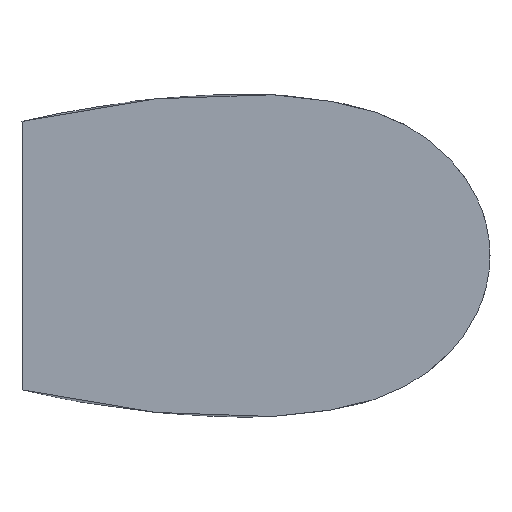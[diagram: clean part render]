
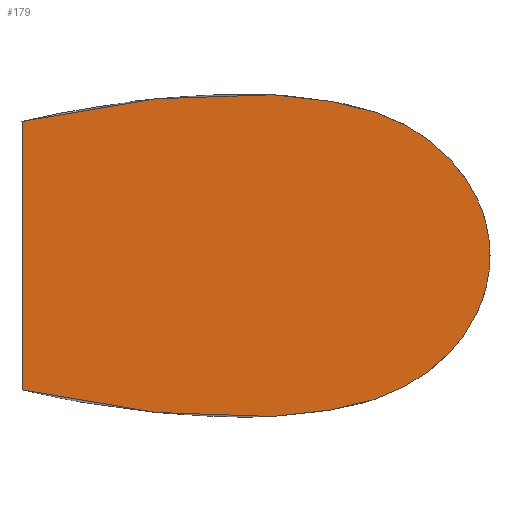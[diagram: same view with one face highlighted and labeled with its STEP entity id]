
A CAD part, left-side view. The second image highlights one B-rep face of the part: STEP entity #179.
In plain terms, the highlighted planar face has unit normal (-1, 0, 0).
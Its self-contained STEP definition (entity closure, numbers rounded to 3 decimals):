
#2=DIRECTION('',(0.,0.,-1.));
#3=VECTOR('',#2,2.411);
#4=CARTESIAN_POINT('',(-9.,-0.3,1.206));
#5=LINE('',#4,#3);
#10=CARTESIAN_POINT('',(-9.,-0.3,1.206));
#11=CARTESIAN_POINT('',(-9.,-0.463,1.246));
#12=CARTESIAN_POINT('',(-9.,-0.787,1.315));
#13=CARTESIAN_POINT('',(-9.,-1.192,1.376));
#14=CARTESIAN_POINT('',(-9.,-1.522,1.411));
#15=CARTESIAN_POINT('',(-9.,-1.711,1.425));
#16=CARTESIAN_POINT('',(-9.,-1.839,1.432));
#17=CARTESIAN_POINT('',(-9.,-1.904,1.435));
#18=CARTESIAN_POINT('',(-9.,-1.968,1.44));
#19=CARTESIAN_POINT('',(-9.,-2.099,1.448));
#20=CARTESIAN_POINT('',(-9.,-2.321,1.454));
#21=CARTESIAN_POINT('',(-9.,-2.645,1.442));
#22=CARTESIAN_POINT('',(-9.,-2.942,1.408));
#23=CARTESIAN_POINT('',(-9.,-3.182,1.366));
#24=CARTESIAN_POINT('',(-9.,-3.423,1.313));
#25=CARTESIAN_POINT('',(-9.,-3.715,1.2));
#26=CARTESIAN_POINT('',(-9.,-4.033,0.992));
#27=CARTESIAN_POINT('',(-9.,-4.292,0.711));
#28=CARTESIAN_POINT('',(-9.,-4.463,0.371));
#29=CARTESIAN_POINT('',(-9.,-4.502,0.123));
#30=CARTESIAN_POINT('',(-9.,-4.502,0.));
#32=CARTESIAN_POINT('',(-9.,-0.3,-1.206));
#33=CARTESIAN_POINT('',(-9.,-0.463,-1.246));
#34=CARTESIAN_POINT('',(-9.,-0.787,-1.315));
#35=CARTESIAN_POINT('',(-9.,-1.192,-1.376));
#36=CARTESIAN_POINT('',(-9.,-1.522,-1.411));
#37=CARTESIAN_POINT('',(-9.,-1.711,-1.425));
#38=CARTESIAN_POINT('',(-9.,-1.839,-1.432));
#39=CARTESIAN_POINT('',(-9.,-1.904,-1.435));
#40=CARTESIAN_POINT('',(-9.,-1.968,-1.44));
#41=CARTESIAN_POINT('',(-9.,-2.099,-1.448));
#42=CARTESIAN_POINT('',(-9.,-2.321,-1.454));
#43=CARTESIAN_POINT('',(-9.,-2.645,-1.442));
#44=CARTESIAN_POINT('',(-9.,-2.942,-1.408));
#45=CARTESIAN_POINT('',(-9.,-3.182,-1.366));
#46=CARTESIAN_POINT('',(-9.,-3.423,-1.313));
#47=CARTESIAN_POINT('',(-9.,-3.715,-1.2));
#48=CARTESIAN_POINT('',(-9.,-4.033,-0.992));
#49=CARTESIAN_POINT('',(-9.,-4.292,-0.711));
#50=CARTESIAN_POINT('',(-9.,-4.463,-0.371));
#51=CARTESIAN_POINT('',(-9.,-4.502,-0.123));
#52=CARTESIAN_POINT('',(-9.,-4.502,0.));
#144=CARTESIAN_POINT('',(-9.,-0.3,1.206));
#145=CARTESIAN_POINT('',(-9.,-0.3,-1.206));
#146=VERTEX_POINT('',#144);
#147=VERTEX_POINT('',#145);
#148=VERTEX_POINT('',#30);
#167=CARTESIAN_POINT('',(-9.,0.,0.));
#168=DIRECTION('',(1.,0.,0.));
#169=DIRECTION('',(0.,0.,-1.));
#170=AXIS2_PLACEMENT_3D('',#167,#168,#169);
#171=PLANE('',#170);
#172=ORIENTED_EDGE('',*,*,#154,.F.);
#174=ORIENTED_EDGE('',*,*,#173,.T.);
#176=ORIENTED_EDGE('',*,*,#175,.F.);
#177=EDGE_LOOP('',(#172,#174,#176));
#178=FACE_OUTER_BOUND('',#177,.F.);
#179=ADVANCED_FACE('',(#178),#171,.F.);
#31=B_SPLINE_CURVE_WITH_KNOTS('',3,(#10,#11,#12,#13,#14,#15,#16,#17,#18,#19,#20,
#21,#22,#23,#24,#25,#26,#27,#28,#29,#30),.UNSPECIFIED.,.F.,.F.,(4,1,1,1,1,1,1,1,
1,1,1,1,1,1,1,1,1,1,4),(0.,0.111,0.222,
0.277,0.332,0.346,0.36,
0.374,0.388,0.443,0.513,
0.582,0.617,0.652,0.722,
0.791,0.861,0.93,1.),.UNSPECIFIED.);
#53=B_SPLINE_CURVE_WITH_KNOTS('',3,(#32,#33,#34,#35,#36,#37,#38,#39,#40,#41,#42,
#43,#44,#45,#46,#47,#48,#49,#50,#51,#52),.UNSPECIFIED.,.F.,.F.,(4,1,1,1,1,1,1,1,
1,1,1,1,1,1,1,1,1,1,4),(0.,0.111,0.222,
0.277,0.332,0.346,0.36,
0.374,0.388,0.443,0.513,
0.582,0.617,0.652,0.722,
0.791,0.861,0.93,1.),.UNSPECIFIED.);
#154=EDGE_CURVE('',#146,#147,#5,.T.);
#173=EDGE_CURVE('',#146,#148,#31,.T.);
#175=EDGE_CURVE('',#147,#148,#53,.T.);
